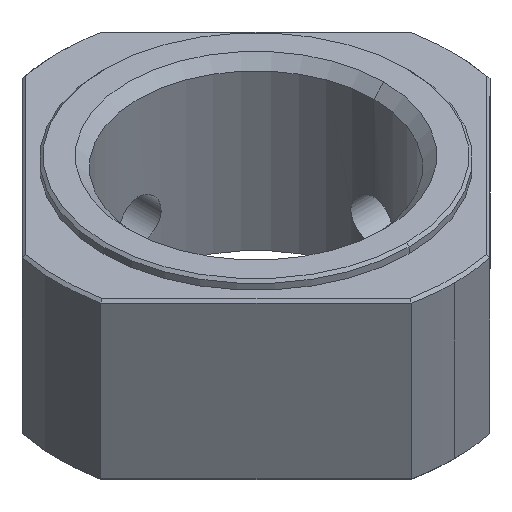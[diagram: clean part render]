
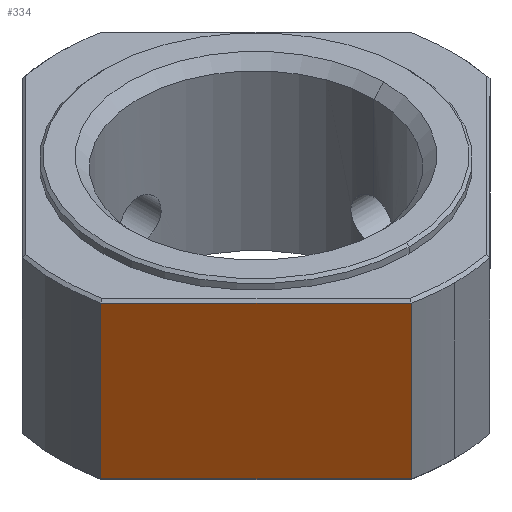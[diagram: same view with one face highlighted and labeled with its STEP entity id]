
A CAD part, isometric view. The second image highlights one B-rep face of the part: STEP entity #334.
In plain terms, the highlighted planar face has unit normal (-0.707, -0.707, 0).
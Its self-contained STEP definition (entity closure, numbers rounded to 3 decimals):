
#33 = FACE_OUTER_BOUND ( 'NONE', #1038, .T. ) ;
#34 = AXIS2_PLACEMENT_3D ( 'NONE', #737, #736, #735 ) ;
#64 = ORIENTED_EDGE ( 'NONE', *, *, #463, .T. ) ;
#65 = ORIENTED_EDGE ( 'NONE', *, *, #456, .T. ) ;
#66 = ORIENTED_EDGE ( 'NONE', *, *, #455, .T. ) ;
#130 = VECTOR ( 'NONE', #1288, 1000. ) ;
#132 = VECTOR ( 'NONE', #1267, 1000. ) ;
#134 = VECTOR ( 'NONE', #1291, 1000. ) ;
#161 = VECTOR ( 'NONE', #1686, 1000. ) ;
#334 = ADVANCED_FACE ( 'NONE', ( #33 ), #738, .T. ) ;
#390 = EDGE_CURVE ( 'NONE', #898, #886, #1688, .T. ) ;
#455 = EDGE_CURVE ( 'NONE', #886, #865, #1293, .T. ) ;
#456 = EDGE_CURVE ( 'NONE', #887, #898, #1290, .T. ) ;
#463 = EDGE_CURVE ( 'NONE', #865, #887, #1269, .T. ) ;
#735 = DIRECTION ( 'NONE',  ( 0.707, -0.707, 0. ) ) ;
#736 = DIRECTION ( 'NONE',  ( -0.707, -0.707, 0. ) ) ;
#737 = CARTESIAN_POINT ( 'NONE',  ( 0., -28.284, 20. ) ) ;
#738 = PLANE ( 'NONE',  #34 ) ;
#865 = VERTEX_POINT ( 'NONE', #1260 ) ;
#886 = VERTEX_POINT ( 'NONE', #1239 ) ;
#887 = VERTEX_POINT ( 'NONE', #1238 ) ;
#898 = VERTEX_POINT ( 'NONE', #1227 ) ;
#1038 = EDGE_LOOP ( 'NONE', ( #64, #65, #1106, #66 ) ) ;
#1106 = ORIENTED_EDGE ( 'NONE', *, *, #390, .T. ) ;
#1227 = CARTESIAN_POINT ( 'NONE',  ( -4.761, -23.523, 0.3 ) ) ;
#1238 = CARTESIAN_POINT ( 'NONE',  ( -23.523, -4.761, 0.3 ) ) ;
#1239 = CARTESIAN_POINT ( 'NONE',  ( -4.761, -23.523, 18.7 ) ) ;
#1260 = CARTESIAN_POINT ( 'NONE',  ( -23.523, -4.761, 18.7 ) ) ;
#1267 = DIRECTION ( 'NONE',  ( 0., 0., -1. ) ) ;
#1268 = CARTESIAN_POINT ( 'NONE',  ( -23.523, -4.761, 41.677 ) ) ;
#1269 = LINE ( 'NONE', #1268, #132 ) ;
#1288 = DIRECTION ( 'NONE',  ( 0.707, -0.707, 0. ) ) ;
#1289 = CARTESIAN_POINT ( 'NONE',  ( -4.761, -23.523, 0.3 ) ) ;
#1290 = LINE ( 'NONE', #1289, #130 ) ;
#1291 = DIRECTION ( 'NONE',  ( -0.707, 0.707, 0. ) ) ;
#1292 = CARTESIAN_POINT ( 'NONE',  ( -23.523, -4.761, 18.7 ) ) ;
#1293 = LINE ( 'NONE', #1292, #134 ) ;
#1686 = DIRECTION ( 'NONE',  ( 0., 0., 1. ) ) ;
#1687 = CARTESIAN_POINT ( 'NONE',  ( -4.761, -23.523, 41.677 ) ) ;
#1688 = LINE ( 'NONE', #1687, #161 ) ;
